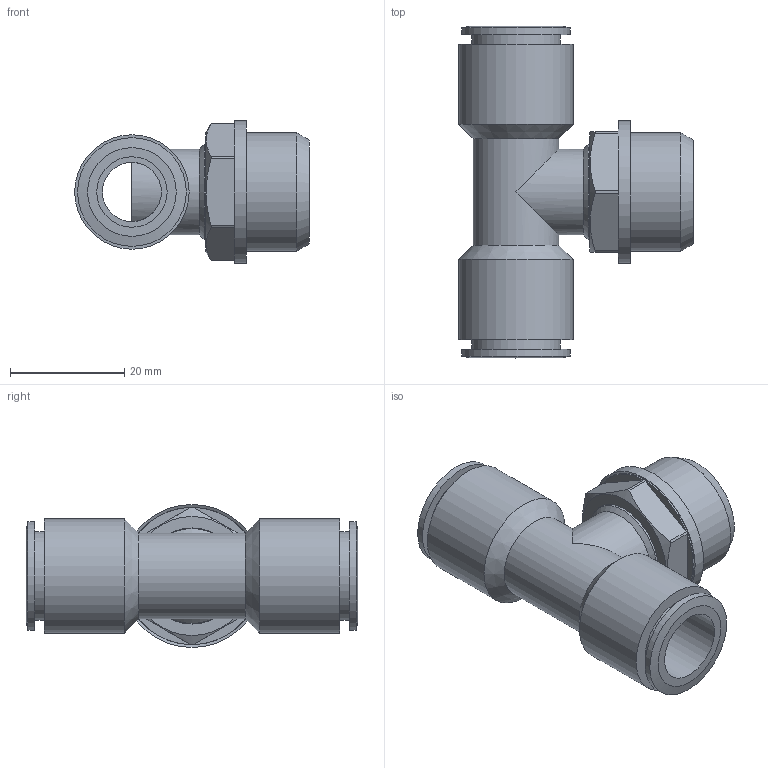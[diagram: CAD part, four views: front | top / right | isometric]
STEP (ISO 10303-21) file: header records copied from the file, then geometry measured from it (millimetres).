
FILE_DESCRIPTION((''),'2;1');
FILE_NAME('C:\Documents and Settings\rivolro1\Documenti\copia di Raccordi\PLASTICA\T20XXXX\T201212.stp','2007-10-31T15:27:10',('Rivolro1'),(''),'Autodesk Inventor 2008','Autodesk Inventor 2008','');
FILE_SCHEMA(('AUTOMOTIVE_DESIGN { 1 0 10303 214 1 1 1 1 }'));
Length unit declared in the file: millimetre
Products named in the file (1): T201212
Bounding box: 41 x 58 x 25 mm (x, y, z)
Volume: 14433.1 mm3; surface area: 9485.7 mm2
Topology: 1 solids, 1 shells, 52 faces, 112 edges, 72 vertices
Faces by surface type: plane 23, cylinder 17, cone 8, bspline 4
Full cylindrical faces by diameter (mm): 10 x1, 10.3 x1, 15 x2, 15.5 x2, 16.6 x1, 16.8 x1, 19 x2, 20 x2, 20.7 x1, 24 x1, 25 x1
Entity records: 1428 total; most frequent: CARTESIAN_POINT 323, DIRECTION 222, ORIENTED_EDGE 160, AXIS2_PLACEMENT_3D 101, EDGE_LOOP 92, EDGE_CURVE 80, VERTEX_POINT 66, FACE_OUTER_BOUND 52
